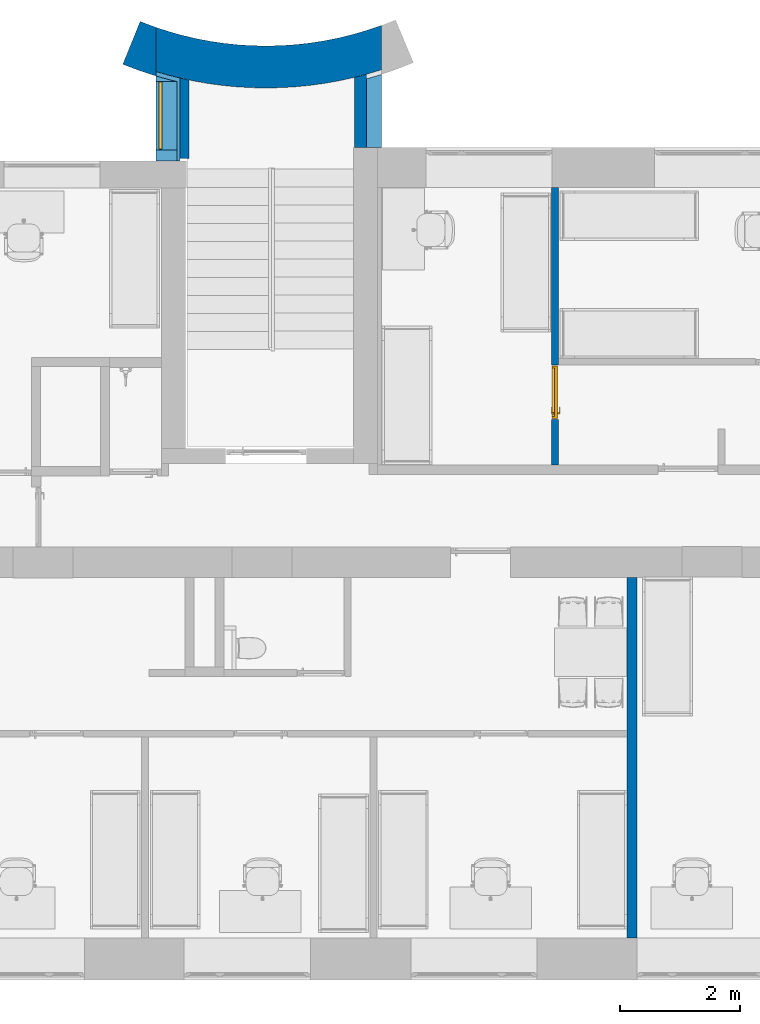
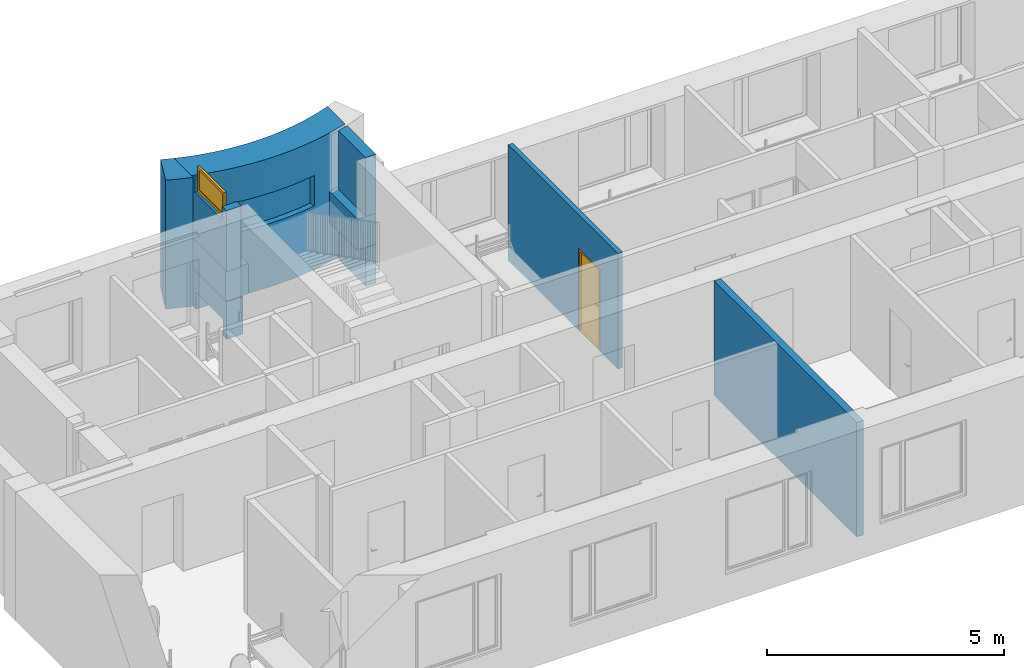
# One storey, part 7 of 48: 10 walls, 1 door, 1 window, 6 openings.
"""IFC2X3 building model written with IfcOpenShell, lengths in millimetres."""

from ifc_helpers import new_model, entity, si_unit, converted_unit, derived_unit, direction, frame, frame_2d, origin, place, context, subcontext, project, spatial, polyline, circle_curve, parameter, trimmed, segment, composite_curve, rectangle, outline, extrude, clip, bounded_halfspace, faceted_brep, source, transform, mapped, material, material_list, layer, layer_set, layer_usage, type_object, type_shapes, element, fill, save


model = new_model("IFC2X3")

# Units and contexts
model_context = context("Model", 3, precision=0.01, world=origin(), true_north=direction((6.12303176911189e-17, 1.0)))
body_context = subcontext(model_context, "Body", "Model", "MODEL_VIEW")
ifc_project = project(units=[si_unit("LENGTHUNIT", "METRE", prefix="MILLI"), si_unit("AREAUNIT", "SQUARE_METRE"), si_unit("VOLUMEUNIT", "CUBIC_METRE"), converted_unit("PLANEANGLEUNIT", "DEGREE", entity("IfcRatioMeasure", 0.0174532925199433), si_unit("PLANEANGLEUNIT", "RADIAN"), dimensions=[0, 0, 0, 0, 0, 0, 0]), si_unit("MASSUNIT", "GRAM", prefix="KILO"), derived_unit("MASSDENSITYUNIT", [(si_unit("MASSUNIT", "GRAM", prefix="KILO"), 1), (si_unit("LENGTHUNIT", "METRE"), -3)]), si_unit("TIMEUNIT", "SECOND"), si_unit("FREQUENCYUNIT", "HERTZ"), si_unit("THERMODYNAMICTEMPERATUREUNIT", "DEGREE_CELSIUS"), derived_unit("THERMALTRANSMITTANCEUNIT", [(si_unit("MASSUNIT", "GRAM", prefix="KILO"), 1), (si_unit("THERMODYNAMICTEMPERATUREUNIT", "KELVIN"), -1), (si_unit("TIMEUNIT", "SECOND"), -3)]), derived_unit("VOLUMETRICFLOWRATEUNIT", [(si_unit("LENGTHUNIT", "METRE"), 3), (si_unit("TIMEUNIT", "SECOND"), -1)]), si_unit("ELECTRICCURRENTUNIT", "AMPERE"), si_unit("ELECTRICVOLTAGEUNIT", "VOLT"), si_unit("POWERUNIT", "WATT"), si_unit("FORCEUNIT", "NEWTON", prefix="KILO"), si_unit("ILLUMINANCEUNIT", "LUX"), si_unit("LUMINOUSFLUXUNIT", "LUMEN"), si_unit("LUMINOUSINTENSITYUNIT", "CANDELA"), derived_unit("USERDEFINED", [(si_unit("MASSUNIT", "GRAM", prefix="KILO"), -1), (si_unit("LENGTHUNIT", "METRE"), -2), (si_unit("TIMEUNIT", "SECOND"), 3), (si_unit("LUMINOUSFLUXUNIT", "LUMEN"), 1)]), derived_unit("LINEARVELOCITYUNIT", [(si_unit("LENGTHUNIT", "METRE"), 1), (si_unit("TIMEUNIT", "SECOND"), -1)]), si_unit("PRESSUREUNIT", "PASCAL"), derived_unit("USERDEFINED", [(si_unit("LENGTHUNIT", "METRE"), -2), (si_unit("MASSUNIT", "GRAM", prefix="KILO"), 1), (si_unit("TIMEUNIT", "SECOND"), -2)]), derived_unit("LINEARFORCEUNIT", [(si_unit("MASSUNIT", "GRAM", prefix="KILO"), 1), (si_unit("LENGTHUNIT", "METRE"), 1), (si_unit("TIMEUNIT", "SECOND"), -2), (si_unit("LENGTHUNIT", "METRE"), -1)]), derived_unit("PLANARFORCEUNIT", [(si_unit("MASSUNIT", "GRAM", prefix="KILO"), 1), (si_unit("LENGTHUNIT", "METRE"), 1), (si_unit("TIMEUNIT", "SECOND"), -2), (si_unit("LENGTHUNIT", "METRE"), -2)])], contexts=[model_context])

# Site, building, storey
site_placement = place(None, origin())
site = spatial("IfcSite", under=ifc_project, at=site_placement, Name="Default", CompositionType="ELEMENT")
building_placement = place(site_placement, origin())
building = spatial("IfcBuilding", under=site, at=building_placement, Name="SMA ARH", CompositionType="ELEMENT")
storey_placement = place(building_placement, frame((0.0, 0.0, 6600.0)))
storey = spatial("IfcBuildingStorey", under=building, at=storey_placement, Name="3 Korrus", CompositionType="ELEMENT", Elevation=6599.99999999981)

# Wall, opening
ifc_material_1 = material(Name="_ol.olev sein")
ifc_layer_1 = layer(ifc_material_1, 700.0)
ifc_layer_set_1 = layer_set([ifc_layer_1], Name="Basic Wall:Generic - 700mm")
ifc_layer_usage_1 = layer_usage(ifc_layer_set_1, "AXIS2", "POSITIVE", -350.0)
wall_type_1 = type_object("IfcWallType", Name="Basic Wall:Generic - 700mm", PredefinedType="STANDARD", material=ifc_layer_set_1)
wall_1_placement = place(storey_placement, frame((12191.2716618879, 14876.7319136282, 0.0)))
wall_1 = element("IfcWallStandardCase", 1, at=wall_1_placement, inside=storey, type_object=wall_type_1, material=ifc_layer_usage_1, Name="Basic Wall:Generic - 700mm", ObjectType="Basic Wall:Generic - 700mm", context=body_context, shape_type="Clipping", body=[
    clip(extrude(outline(polyline([(-121.271661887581, 328.318723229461), (-245.780193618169, 284.000196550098), (-371.270803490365, 242.658981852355), (-604.021526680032, 174.567482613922), (-839.513726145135, 116.671746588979), (-1077.30206516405, 69.0810854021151), (-1316.93589195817, 31.8856071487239), (-1557.96106534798, 5.155728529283), (-1799.92081359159, -11.0579579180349), (-2042.35659897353, -16.7247793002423), (-2284.80898563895, -11.8340401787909), (-2526.81850911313, 3.60495738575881), (-2767.92654586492, 29.5629315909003), (-3007.67618127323, 65.9906764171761), (-3245.61307435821, 112.819154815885), (-3481.28422751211, 169.959651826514), (-3682.43057507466, 227.454680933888), (-3881.27166188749, 292.461504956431), (-3881.27166188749, -443.737485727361), (-3682.15245239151, -500.919538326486), (-3481.27093429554, -551.487551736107), (-3244.83132382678, -602.083014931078), (-3006.61860833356, -643.524031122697), (-2766.98550395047, -675.749900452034), (-2526.28874682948, -698.712701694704), (-2284.88603622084, -712.378371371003), (-2043.13611550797, -716.726635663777), (-1801.39824167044, -711.751040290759), (-1560.03165418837, -697.458960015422), (-1319.39504397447, -673.871587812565), (-1079.84602306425, -641.023903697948), (-841.740593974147, -598.964622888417), (-605.432644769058, -547.75612881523), (-371.273665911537, -487.4744520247), (-245.895088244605, -451.196018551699), (-121.271661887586, -412.306870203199), (-121.271661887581, 328.318723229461)])), origin(), (0.0, 0.0, 1.0), 3309.99999999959), bounded_halfspace(frame((-3881.27166188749, -443.737485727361, 3310.0), z_axis=(-1.0, 0.0, 0.0), x_axis=(0.0, -1.0, 0.0)), False, frame((-3881.27166188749, -443.737485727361, 3310.0), z_axis=(-1.0, 0.0, 0.0), x_axis=(0.0, -1.0, 0.0)), polyline([(0.0, 0.0), (-736.198990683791, 0.0), (-736.198990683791, -3310.0), (0.0, -3310.0), (0.0, -2350.0), (0.0, -1570.0), (0.0, 0.0)]))),
])
opening_1_placement = place(wall_1_placement, origin())
element("IfcOpeningElement", 2, at=opening_1_placement, cuts=wall_1, Name="Basic Wall:Generic - 700mm", ObjectType="Opening", context=body_context, shape_type="SweptSolid", body=[
    extrude(outline(composite_curve([segment(trimmed(circle_curve(frame_2d((-47.0607839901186, 6119.12473077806), x_axis=(1.0, 0.0)), 6270.13888888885), [parameter(261.038833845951)], [parameter(279.775431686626)], True, "PARAMETER"), True, "CONTINUOUS"), segment(polyline([(1017.52692784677, -59.976716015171), (981.283991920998, 75.2837622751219)]), True, "CONTINUOUS"), segment(trimmed(circle_curve(frame_2d((-47.0607839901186, 6159.12473077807), x_axis=(1.0, 0.0)), 6170.13888888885), [parameter(261.349588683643)], [parameter(279.593957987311)], True, "PARAMETER"), False, "CONTINUOUS"), segment(polyline([(-975.081981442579, 59.1746846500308), (-1023.72893832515, -74.4817309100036)]), True, "CONTINUOUS")], self_intersect=False)), frame((-2004.21087789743, -565.71775551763, 1630.0)), (0.0, 0.0, 1.0), 783.228184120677),
])

# Wall
ifc_layer_2 = layer(ifc_material_1, 550.0)
ifc_layer_set_2 = layer_set([ifc_layer_2], Name="Basic Wall:Generic - 550mm")
ifc_layer_usage_2 = layer_usage(ifc_layer_set_2, "AXIS2", "POSITIVE", -275.0)
wall_type_2 = type_object("IfcWallType", Name="Basic Wall:Generic - 550mm", PredefinedType="STANDARD", material=ifc_layer_set_2)
wall_2_placement = place(storey_placement, frame((8585.0, 14432.9944279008, 960.0), z_axis=(0.0, 0.0, 1.0), x_axis=(0.0, -1.0, 0.0)))
element("IfcWallStandardCase", 3, at=wall_2_placement, inside=storey, type_object=wall_type_2, material=ifc_layer_usage_2, Name="Basic Wall:Generic - 550mm", ObjectType="Basic Wall:Generic - 550mm", context=body_context, shape_type="SweptSolid", body=[
    extrude(outline(polyline([(1451.39049897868, -275.0), (1451.39049897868, 275.0), (140.953101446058, 275.0), (124.81000248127, 199.892907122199), (107.749220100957, 124.994913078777), (74.7736035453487, -9.11403150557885), (38.8520318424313, -142.465176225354), (0.0, -275.0), (1451.39049897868, -275.0)])), origin(), (0.0, 0.0, 1.0), 780.0),
])

# Wall, opening
ifc_layer_3 = layer(ifc_material_1, 400.0)
ifc_layer_set_3 = layer_set([ifc_layer_3], Name="Basic Wall:Generic - 400mm")
ifc_layer_usage_3 = layer_usage(ifc_layer_set_3, "AXIS2", "POSITIVE", -200.0)
wall_type_3 = type_object("IfcWallType", Name="Basic Wall:Generic - 400mm", PredefinedType="STANDARD", material=ifc_layer_set_3)
wall_3_placement = place(storey_placement, frame((8510.0, 14432.9944279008, 0.0), z_axis=(0.0, 0.0, 1.0), x_axis=(0.0, -1.0, 0.0)))
wall_3 = element("IfcWallStandardCase", 4, at=wall_3_placement, inside=storey, type_object=wall_type_3, material=ifc_layer_usage_3, Name="Basic Wall:Generic - 400mm", ObjectType="Basic Wall:Generic - 400mm", context=body_context, shape_type="SweptSolid", body=[
    extrude(outline(composite_curve([segment(polyline([(0.0, -200.0), (1451.39049897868, -200.0)]), True, "CONTINUOUS"), segment(polyline([(1451.39049897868, -200.0), (1486.79138500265, -200.0)]), True, "CONTINUOUS"), segment(polyline([(1486.79138500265, -200.0), (1486.79138500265, 200.0)]), True, "CONTINUOUS"), segment(polyline([(1486.79138500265, 200.0), (107.750434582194, 200.0)]), True, "CONTINUOUS"), segment(trimmed(circle_curve(frame_2d((-5997.14446098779, 1630.0), x_axis=(0.0, 1.0)), 6270.13888888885), [parameter(253.030681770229)], [parameter(256.816815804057)], True, "PARAMETER"), False, "CONTINUOUS")], self_intersect=False)), origin(), (0.0, 0.0, 1.0), 959.999999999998),
])
opening_2_placement = place(wall_3_placement, origin())
element("IfcOpeningElement", 5, at=opening_2_placement, cuts=wall_3, Name="Basic Wall:Generic - 400mm", ObjectType="Opening", context=body_context, shape_type="SweptSolid", body=[
    extrude(rectangle(XDim=670.0, YDim=1140.0, at=frame_2d((0.0, 5.40012479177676e-13), x_axis=(0.0, 1.0))), frame((772.994427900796, -1324.0, 95.0), z_axis=(0.0, 1.0, 0.0), x_axis=(-1.0, 0.0, 0.0)), (0.0, 0.0, 1.0), 3048.0),
])

# Wall, openings
ifc_layer_4 = layer(ifc_material_1, 770.0)
ifc_layer_set_4 = layer_set([ifc_layer_4], Name="Basic Wall:Generic - 770mm")
ifc_layer_usage_4 = layer_usage(ifc_layer_set_4, "AXIS2", "POSITIVE", -385.0)
wall_type_4 = type_object("IfcWallType", Name="Basic Wall:Generic - 770mm", PredefinedType="STANDARD", material=ifc_layer_set_4)
wall_4_placement = place(storey_placement, frame((8421.12630517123, 14728.5037206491, 0.0)))
wall_4 = element("IfcWallStandardCase", 6, at=wall_4_placement, inside=storey, type_object=wall_type_4, material=ifc_layer_usage_4, Name="Basic Wall:Generic - 770mm", ObjectType="Basic Wall:Generic - 770mm", context=body_context, shape_type="SweptSolid", body=[
    extrude(outline(composite_curve([segment(polyline([(-111.126305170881, -368.613543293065), (-111.12630517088, -295.509292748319)]), True, "CONTINUOUS"), segment(polyline([(-111.12630517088, -295.509292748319), (-111.126305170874, 440.735065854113)]), True, "CONTINUOUS"), segment(trimmed(circle_curve(frame_2d((1718.88982208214, 5701.67492632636), x_axis=(1.0, 0.0)), 5570.13888888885), [parameter(247.920826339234)], [parameter(250.819787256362)], True, "PARAMETER"), False, "CONTINUOUS"), segment(polyline([(-374.855514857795, 540.020375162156), (-664.288856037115, -173.511923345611)]), True, "CONTINUOUS"), segment(trimmed(circle_curve(frame_2d((1718.88982208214, 5701.67492632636), x_axis=(1.0, 0.0)), 6340.13888888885), [parameter(247.920826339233)], [parameter(253.223462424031)], True, "PARAMETER"), True, "CONTINUOUS")], self_intersect=False)), origin(), (0.0, 0.0, 1.0), 3309.99999999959),
])
opening_3_placement = place(wall_4_placement, origin())
element("IfcOpeningElement", 7, at=opening_3_placement, cuts=wall_4, Name="Basic Wall:Generic - 770mm", ObjectType="Recess", context=body_context, shape_type="SweptSolid", body=[
    extrude(rectangle(XDim=349.999999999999, YDim=1140.0, at=frame_2d((-5.40012479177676e-13, 0.0), x_axis=(1.0, 0.0))), frame((63.8736948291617, -1028.50372064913, 2980.0)), (0.0, 0.0, 1.0), 669.999999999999),
])
opening_4_placement = place(wall_4_placement, origin())
element("IfcOpeningElement", 8, at=opening_4_placement, cuts=wall_4, Name="Basic Wall:Generic - 770mm", ObjectType="Opening", context=body_context, shape_type="SweptSolid", body=[
    extrude(outline(composite_curve([segment(trimmed(circle_curve(frame_2d((-47.0607839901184, 6119.12473077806), x_axis=(1.0, 0.0)), 6270.13888888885), [parameter(261.038833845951)], [parameter(279.775431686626)], True, "PARAMETER"), True, "CONTINUOUS"), segment(polyline([(1017.52692784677, -59.9767160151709), (981.283991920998, 75.2837622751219)]), True, "CONTINUOUS"), segment(trimmed(circle_curve(frame_2d((-47.0607839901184, 6159.12473077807), x_axis=(1.0, 0.0)), 6170.13888888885), [parameter(261.349588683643)], [parameter(279.593957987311)], True, "PARAMETER"), False, "CONTINUOUS"), segment(polyline([(-975.081981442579, 59.1746846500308), (-1023.72893832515, -74.4817309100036)]), True, "CONTINUOUS")], self_intersect=False)), frame((1765.93447881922, -417.489562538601, 1630.0)), (0.0, 0.0, 1.0), 783.228184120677),
])

# Walls
ifc_layer_5 = layer(ifc_material_1, 450.0)
ifc_layer_set_5 = layer_set([ifc_layer_5], Name="Basic Wall:Generic - 450mm")
ifc_layer_usage_5 = layer_usage(ifc_layer_set_5, "AXIS2", "POSITIVE", -225.0)
wall_type_5 = type_object("IfcWallType", Name="Basic Wall:Generic - 450mm", PredefinedType="STANDARD", material=ifc_layer_set_5)
wall_5_placement = place(storey_placement, frame((11845.0, 13165.0, 1000.0), z_axis=(0.0, 0.0, 1.0), x_axis=(0.0, 1.0, 0.0)))
element("IfcWallStandardCase", 9, at=wall_5_placement, inside=storey, type_object=wall_type_5, material=ifc_layer_usage_5, Name="Basic Wall:Generic - 450mm", ObjectType="Basic Wall:Generic - 450mm", context=body_context, shape_type="SweptSolid", body=[
    extrude(outline(polyline([(1299.42504342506, -225.0), (1260.53752809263, -100.38200497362), (1224.25970513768, 24.9940120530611), (1197.39370689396, 124.775303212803), (1172.17231373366, 225.0), (0.0, 225.0), (0.0, 25.0), (0.0, -225.0), (1222.6877249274, -225.0), (1299.42504342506, -225.0)])), origin(), (0.0, 0.0, 1.0), 800.0),
])
ifc_layer_6 = layer(ifc_material_1, 250.0)
ifc_layer_set_6 = layer_set([ifc_layer_6], Name="Basic Wall:Generic - 250mm")
ifc_layer_usage_6 = layer_usage(ifc_layer_set_6, "AXIS2", "POSITIVE", -125.0)
wall_type_6 = type_object("IfcWallType", Name="Basic Wall:Generic - 250mm", PredefinedType="STANDARD", material=ifc_layer_set_6)
wall_6_placement = place(storey_placement, frame((11945.0, 13165.0, 0.0), z_axis=(0.0, 0.0, 1.0), x_axis=(0.0, 1.0, 0.0)))
element("IfcWallStandardCase", 10, at=wall_6_placement, inside=storey, type_object=wall_type_6, material=ifc_layer_usage_6, Name="Basic Wall:Generic - 250mm", ObjectType="Basic Wall:Generic - 250mm", context=body_context, shape_type="SweptSolid", body=[
    extrude(outline(composite_curve([segment(polyline([(114.0, -748.42504962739), (114.0, 474.262675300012)]), True, "CONTINUOUS"), segment(polyline([(114.0, 474.262675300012), (44.0, 474.262675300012)]), True, "CONTINUOUS"), segment(polyline([(44.0, 474.262675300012), (-136.0, 474.262675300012)]), True, "CONTINUOUS"), segment(polyline([(-136.0, 474.262675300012), (-136.0, -674.362976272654)]), True, "CONTINUOUS"), segment(trimmed(circle_curve(frame_2d((-1811.51043909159, -6789.10139250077), x_axis=(1.0, 0.0)), 6340.13888888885), [parameter(72.319932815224)], [parameter(74.6764012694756)], True, "PARAMETER"), False, "CONTINUOUS")], self_intersect=False)), frame((474.262675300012, -11.0, 0.0), z_axis=(0.0, 0.0, -1.0), x_axis=(0.0, -1.0, 0.0)), (0.0, 0.0, -1.0), 1000.0),
])
ifc_layer_usage_7 = layer_usage(ifc_layer_set_6, "AXIS2", "POSITIVE", -125.0)
wall_7_placement = place(storey_placement, frame((11945.0, 13165.0, 1800.0), z_axis=(0.0, 0.0, 1.0), x_axis=(0.0, 1.0, 0.0)))
element("IfcWallStandardCase", 11, at=wall_7_placement, inside=storey, type_object=wall_type_6, material=ifc_layer_usage_7, Name="Basic Wall:Generic - 250mm", ObjectType="Basic Wall:Generic - 250mm", context=body_context, shape_type="SweptSolid", body=[
    extrude(outline(composite_curve([segment(polyline([(125.0, -629.859380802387), (125.0, 592.828344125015)]), True, "CONTINUOUS"), segment(polyline([(125.0, 592.828344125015), (-125.0, 592.828344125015)]), True, "CONTINUOUS"), segment(polyline([(-125.0, 592.828344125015), (-125.0, -555.797307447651)]), True, "CONTINUOUS"), segment(trimmed(circle_curve(frame_2d((-1800.51043909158, -6670.53572367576), x_axis=(1.0, 0.0)), 6340.13888888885), [parameter(72.319932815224)], [parameter(74.6764012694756)], True, "PARAMETER"), False, "CONTINUOUS")], self_intersect=False)), frame((592.828344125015, 0.0, 0.0), z_axis=(0.0, 0.0, -1.0), x_axis=(0.0, -1.0, 0.0)), (0.0, 0.0, -1.0), 1509.99999999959),
])

# Wall, opening, window
ifc_layer_7 = layer(ifc_material_1, 350.0)
ifc_layer_set_7 = layer_set([ifc_layer_7], Name="Basic Wall:Generic - 350mm")
ifc_layer_usage_8 = layer_usage(ifc_layer_set_7, "AXIS2", "POSITIVE", -175.0)
wall_type_7 = type_object("IfcWallType", Name="Basic Wall:Generic - 350mm", PredefinedType="STANDARD", material=ifc_layer_set_7)
wall_8_placement = place(storey_placement, frame((8485.0, 14359.890177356, 1740.0), z_axis=(0.0, 0.0, 1.0), x_axis=(0.0, -1.0, 0.0)))
wall_8 = element("IfcWallStandardCase", 12, at=wall_8_placement, inside=storey, type_object=wall_type_7, material=ifc_layer_usage_8, Name="Basic Wall:Generic - 350mm", ObjectType="Basic Wall:Generic - 350mm", context=body_context, shape_type="SweptSolid", body=[
    extrude(outline(composite_curve([segment(polyline([(1413.6871344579, -175.0), (1413.6871344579, 175.0)]), True, "CONTINUOUS"), segment(polyline([(1413.6871344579, 175.0), (94.6862581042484, 175.0)]), True, "CONTINUOUS"), segment(trimmed(circle_curve(frame_2d((-6070.28846961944, 1655.01612725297), x_axis=(0.0, 1.0)), 6340.13888888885), [parameter(253.223462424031)], [parameter(256.500556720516)], True, "PARAMETER"), False, "CONTINUOUS"), segment(polyline([(0.0, -175.0), (1378.28624843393, -175.0)]), True, "CONTINUOUS"), segment(polyline([(1378.28624843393, -175.0), (1413.6871344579, -175.0)]), True, "CONTINUOUS")], self_intersect=False)), origin(), (0.0, 0.0, 1.0), 1569.99999999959),
])
opening_5_placement = place(wall_8_placement, frame((1229.89017735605, 175.0, 1240.0)))
opening_5 = element("IfcOpeningElement", 13, at=opening_5_placement, cuts=wall_8, Name="SMA_W1, 1-jaotus1:A-03_1140x670:1", ObjectType="Opening", context=body_context, shape_type="SweptSolid", body=[
    extrude(rectangle(XDim=670.0, YDim=1140.0, at=frame_2d((335.0, 570.000000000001), x_axis=(1.0, 0.0))), frame((0.0, 0.0, 0.0), z_axis=(0.0, -1.0, 0.0), x_axis=(0.0, 0.0, 1.0)), (0.0, 0.0, 1.0), 350.0),
])
ifc_material_2 = material(Name="Default")
ifc_material_3 = material(Name="EST. Klaas. 3x. Default")
ifc_material_list_1 = material_list([ifc_material_2, ifc_material_3])
ifc_material_4 = material(Name="<Unnamed>")
ifc_material_list_2 = material_list([ifc_material_4, ifc_material_2, ifc_material_3, ifc_material_4, ifc_material_2])
window_style = type_object("IfcWindowStyle", Name="SMA_W1, 1-jaotus1:A-03_1140x670", ConstructionType="NOTDEFINED", OperationType="NOTDEFINED", ParameterTakesPrecedence=False, Sizeable=False, material=ifc_material_list_2)
shared_shape_1 = source(origin(), body_context, "Body", "SweptSolid", [
    extrude(outline(polyline([(-325.0, -560.0), (325.0, -560.0), (325.0, 560.0), (-325.0, 560.0), (-325.0, -560.0)]), holes=[polyline([(-255.0, -490.0), (-255.0, 490.0), (255.0, 490.0), (255.0, -490.0), (-255.0, -490.0)])]), frame((570.0, 250.0, 335.0), z_axis=(0.0, 1.0, 0.0), x_axis=(0.0, 0.0, 1.0)), (0.0, 0.0, 1.0), 50.0),
    extrude(rectangle(XDim=20.0, YDim=980.0, at=frame_2d((-7.99360577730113e-15, 2.8421709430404e-14), x_axis=(1.0, 0.0))), frame((570.0, 275.0, 80.0), z_axis=(0.0, 0.0, 1.0), x_axis=(0.0, 1.0, 0.0)), (0.0, 0.0, 1.0), 510.0),
])
type_shapes(window_style, [shared_shape_1])
window_placement = place(opening_5_placement, frame((0.0, 0.0, 0.0), z_axis=(0.0, 0.0, 1.0), x_axis=(-1.0, 0.0, 0.0)))
window = element("IfcWindow", 14, at=window_placement, inside=storey, type_object=window_style, material=ifc_material_list_1, Name="SMA_W1, 1-jaotus1:A-03_1140x670", ObjectType="SMA_W1, 1-jaotus1:A-03_1140x670", OverallHeight=669.999999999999, OverallWidth=1140.0, context=body_context, shape_type="MappedRepresentation", body=[
    mapped(shared_shape_1, transform((0.0, 0.0, 0.0), scale=1.0)),
])
fill(opening_5, window)

# Wall
ifc_material_5 = material(Name="EST. Ehitusplaat. Kipsplaat")
ifc_layer_8 = layer(ifc_material_5, 12.5)
ifc_layer_9 = layer(ifc_material_5, 12.5)
ifc_material_6 = material(Name="EST. Soojustus. Mineraalvill. Default")
ifc_layer_10 = layer(ifc_material_6, 50.0)
ifc_layer_11 = layer(ifc_material_5, 12.5)
ifc_layer_12 = layer(ifc_material_6, 50.0)
ifc_layer_13 = layer(ifc_material_5, 12.5)
ifc_layer_14 = layer(ifc_material_5, 12.5)
ifc_layer_set_8 = layer_set([ifc_layer_8, ifc_layer_9, ifc_layer_10, ifc_layer_11, ifc_layer_12, ifc_layer_13, ifc_layer_14], Name="Basic Wall:SS-04_Kips, 50+50 mm metallkarkass 2")
ifc_layer_usage_9 = layer_usage(ifc_layer_set_8, "AXIS2", "NEGATIVE", 81.25)
wall_type_8 = type_object("IfcWallType", Name="Basic Wall:SS-04_Kips, 50+50 mm metallkarkass 2", PredefinedType="STANDARD", material=ifc_layer_set_8)
wall_9_placement = place(storey_placement, frame((16239.2500000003, 0.0, 20.0), z_axis=(0.0, 0.0, 1.0), x_axis=(0.0, 1.0, 0.0)))
element("IfcWallStandardCase", 15, at=wall_9_placement, inside=storey, type_object=wall_type_8, material=ifc_layer_usage_9, Name="Basic Wall:SS-04_Kips, 50+50 mm metallkarkass 2", ObjectType="Basic Wall:SS-04_Kips, 50+50 mm metallkarkass 2", context=body_context, shape_type="Clipping", body=[
    clip(extrude(rectangle(XDim=6004.99999999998, YDim=162.500000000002, at=frame_2d((3002.49999999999, 0.0), x_axis=(-1.0, 0.0))), origin(), (0.0, 0.0, 1.0), 2949.99999999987), bounded_halfspace(frame((6005.0, -81.2499999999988, 0.0), z_axis=(0.0, 0.0, 1.0), x_axis=(-1.0, 0.0, 0.0)), True, frame((6005.0, -81.2499999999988, 0.0), z_axis=(0.0, 0.0, 1.0), x_axis=(-1.0, 0.0, 0.0)), polyline([(0.0, 0.0), (0.0, -162.5), (6005.0, -162.5), (6005.0, 0.0), (0.0, 0.0)]))),
])

# Wall, opening, door
ifc_layer_15 = layer(ifc_material_5, 12.5)
ifc_layer_16 = layer(ifc_material_5, 12.5)
ifc_layer_17 = layer(ifc_material_6, 66.0)
ifc_layer_18 = layer(ifc_material_5, 12.5)
ifc_layer_19 = layer(ifc_material_5, 12.5)
ifc_layer_set_9 = layer_set([ifc_layer_15, ifc_layer_16, ifc_layer_17, ifc_layer_18, ifc_layer_19], Name="Basic Wall:SS-05_Kips, 66mm metallkarkass")
ifc_layer_usage_10 = layer_usage(ifc_layer_set_9, "AXIS2", "NEGATIVE", 58.0)
wall_type_9 = type_object("IfcWallType", Name="Basic Wall:SS-05_Kips, 66mm metallkarkass", PredefinedType="STANDARD", material=ifc_layer_set_9)
wall_10_placement = place(storey_placement, frame((14957.5000000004, 12500.0, 0.0), z_axis=(0.0, 0.0, 1.0), x_axis=(0.0, -1.0, 0.0)))
wall_10 = element("IfcWallStandardCase", 16, at=wall_10_placement, inside=storey, type_object=wall_type_9, material=ifc_layer_usage_10, Name="Basic Wall:SS-05_Kips, 66mm metallkarkass", ObjectType="Basic Wall:SS-05_Kips, 66mm metallkarkass", context=body_context, shape_type="SweptSolid", body=[
    extrude(rectangle(XDim=4617.49999999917, YDim=116.0, at=frame_2d((2308.74999999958, -1.17239551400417e-13), x_axis=(-1.0, 0.0))), origin(), (0.0, 0.0, 1.0), 2970.00000000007),
])
opening_6_placement = place(wall_10_placement, frame((2959.0, -58.0, 0.0)))
opening_6 = element("IfcOpeningElement", 17, at=opening_6_placement, cuts=wall_10, Name="SMA_D01, 1-poolne:SU-P-05 - 900x2100 TUBA:1", ObjectType="Opening", context=body_context, shape_type="SweptSolid", body=[
    extrude(rectangle(XDim=2099.99999999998, YDim=900.0, at=frame_2d((1049.99999999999, 450.0), x_axis=(1.0, 0.0))), frame((0.0, 0.0, 0.0), z_axis=(0.0, 1.0, 0.0), x_axis=(0.0, 0.0, 1.0)), (0.0, 0.0, 1.0), 116.0),
])
ifc_material_7 = material(Name="EST. Metall. Alumiinium. Värvitud. RAL7023 (Concrete grey)")
ifc_material_list_3 = material_list([ifc_material_7, ifc_material_4, ifc_material_7, ifc_material_4, ifc_material_4, ifc_material_3, ifc_material_7])
door_style = type_object("IfcDoorStyle", Name="SMA_D01, 1-poolne:SU-P-05 - 900x2100 TUBA", ConstructionType="NOTDEFINED", OperationType="SINGLE_SWING_LEFT", ParameterTakesPrecedence=False, Sizeable=False, material=ifc_material_list_3)
shared_shape_2 = source(origin(), body_context, "Body", "Brep", [
    faceted_brep([(790.0, 6.0, 1112.5), (695.0, 6.0, 1112.5), (695.0, 1.0, 1112.5), (815.0, 1.0, 1112.5), (815.0, 44.0, 1112.5), (790.0, 44.0, 1112.5), (790.0, 6.0, 1087.5), (790.0, 44.0, 1087.5), (815.0, 44.0, 1087.5), (815.0, 1.0, 1087.5), (695.0, 1.0, 1087.5), (695.0, 6.0, 1087.5)], [[[0, 1, 2, 3, 4, 5]], [[6, 7, 8, 9, 10, 11]], [[5, 7, 6, 0]], [[4, 8, 7, 5]], [[3, 9, 8, 4]], [[2, 10, 9, 3]], [[1, 11, 10, 2]], [[0, 6, 11, 1]]]),
    faceted_brep([(777.500000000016, 44.0, 1137.5), (827.500000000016, 44.0, 1137.5), (827.500000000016, 46.0, 1137.5), (777.500000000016, 46.0, 1137.5), (777.500000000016, 44.0, 1017.5), (777.500000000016, 46.0, 1017.5), (827.500000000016, 46.0, 1017.5), (827.500000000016, 44.0, 1017.5)], [[[0, 1, 2, 3]], [[4, 5, 6, 7]], [[3, 5, 4, 0]], [[2, 6, 5, 3]], [[1, 7, 6, 2]], [[0, 4, 7, 1]]]),
    faceted_brep([(790.0, 136.0, 1112.5), (790.0, 98.0, 1112.5), (815.0, 98.0, 1112.5), (815.0, 141.0, 1112.5), (695.0, 141.0, 1112.5), (695.0, 136.0, 1112.5), (790.0, 136.0, 1087.5), (695.0, 136.0, 1087.5), (695.0, 141.0, 1087.5), (815.0, 141.0, 1087.5), (815.0, 98.0, 1087.5), (790.0, 98.0, 1087.5)], [[[0, 1, 2, 3, 4, 5]], [[6, 7, 8, 9, 10, 11]], [[1, 0, 6, 11]], [[2, 1, 11, 10]], [[3, 2, 10, 9]], [[4, 3, 9, 8]], [[5, 4, 8, 7]], [[0, 5, 7, 6]]]),
    faceted_brep([(777.500000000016, 98.0, 1137.5), (777.500000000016, 96.0, 1137.5), (827.500000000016, 96.0, 1137.5), (827.500000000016, 98.0, 1137.5), (777.500000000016, 98.0, 1017.5), (827.500000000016, 98.0, 1017.5), (827.500000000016, 96.0, 1017.5), (777.500000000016, 96.0, 1017.5)], [[[0, 1, 2, 3]], [[4, 5, 6, 7]], [[1, 0, 4, 7]], [[2, 1, 7, 6]], [[3, 2, 6, 5]], [[0, 3, 5, 4]]]),
    faceted_brep([(50.0, 6.0, 30.0), (50.0, 46.0, 30.0), (50.0, 46.0, 20.0), (50.0, 46.0, 0.0), (50.0, 6.0, 0.0), (850.0, 6.0, 30.0), (850.0, 6.0, 0.0), (850.0, 46.0, 0.0), (850.0, 46.0, 20.0), (850.0, 46.0, 30.0), (35.0, 46.0, 0.0), (35.0, 96.0, 0.0), (865.0, 96.0, 0.0), (865.0, 46.0, 0.0), (35.0, 96.0, 20.0), (35.0, 46.0, 20.0), (865.0, 96.0, 20.0), (865.0, 46.0, 20.0)], [[[0, 1, 2, 3, 4]], [[5, 6, 7, 8, 9]], [[4, 6, 5, 0]], [[3, 10, 11, 12, 13, 7, 6, 4]], [[9, 8, 2, 1]], [[0, 5, 9, 1]], [[14, 11, 10, 15]], [[16, 17, 13, 12]], [[15, 2, 8, 17, 16, 14]], [[10, 3, 2, 15]], [[14, 16, 12, 11]], [[17, 8, 7, 13]]]),
    faceted_brep([(10.0, 6.0, 0.0), (10.0, 96.0, 0.0), (35.0, 96.0, 0.0), (35.0, 46.0, 0.0), (50.0, 46.0, 0.0), (50.0, 6.0, 0.0), (50.0, 6.0, 2050.0), (850.0, 6.0, 2050.0), (850.0, 6.0, 0.0), (890.0, 6.0, 0.0), (890.0, 6.0, 2090.0), (10.0, 6.0, 2090.0), (50.0, 46.0, 2050.0), (35.0, 46.0, 2065.0), (865.0, 46.0, 2065.0), (865.0, 46.0, 0.0), (850.0, 46.0, 0.0), (850.0, 46.0, 2050.0), (35.0, 96.0, 2065.0), (10.0, 96.0, 2090.0), (890.0, 96.0, 2090.0), (890.0, 96.0, 0.0), (865.0, 96.0, 0.0), (865.0, 96.0, 2065.0)], [[[0, 1, 2, 3, 4, 5]], [[5, 6, 7, 8, 9, 10, 11, 0]], [[4, 12, 6, 5]], [[3, 13, 14, 15, 16, 17, 12, 4]], [[2, 18, 13, 3]], [[1, 19, 20, 21, 22, 23, 18, 2]], [[0, 11, 19, 1]], [[9, 21, 20, 10]], [[8, 16, 15, 22, 21, 9]], [[7, 17, 16, 8]], [[14, 23, 22, 15]], [[6, 12, 17, 7]], [[13, 18, 23, 14]], [[10, 20, 19, 11]]]),
    faceted_brep([(865.0, 46.0, 2065.0), (35.0, 46.0, 2065.0), (35.0, 46.0, 20.0), (865.0, 46.0, 20.0), (865.0, 96.0, 2065.0), (865.0, 96.0, 20.0), (35.0, 96.0, 20.0), (35.0, 96.0, 2065.0)], [[[0, 1, 2, 3]], [[4, 5, 6, 7]], [[3, 5, 4, 0]], [[2, 6, 5, 3]], [[1, 7, 6, 2]], [[0, 4, 7, 1]]]),
])
type_shapes(door_style, [shared_shape_2])
door_placement = place(opening_6_placement, origin())
door = element("IfcDoor", 18, at=door_placement, inside=storey, type_object=door_style, material=ifc_material_7, Name="SMA_D01, 1-poolne:SU-P-05 - 900x2100 TUBA", ObjectType="SMA_D01, 1-poolne:SU-P-05 - 900x2100 TUBA", OverallHeight=2099.99999999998, OverallWidth=900.0, context=body_context, shape_type="MappedRepresentation", body=[
    mapped(shared_shape_2, transform((0.0, 0.0, 0.0), scale=1.0)),
])
fill(opening_6, door)

save(model, "model.ifc")
